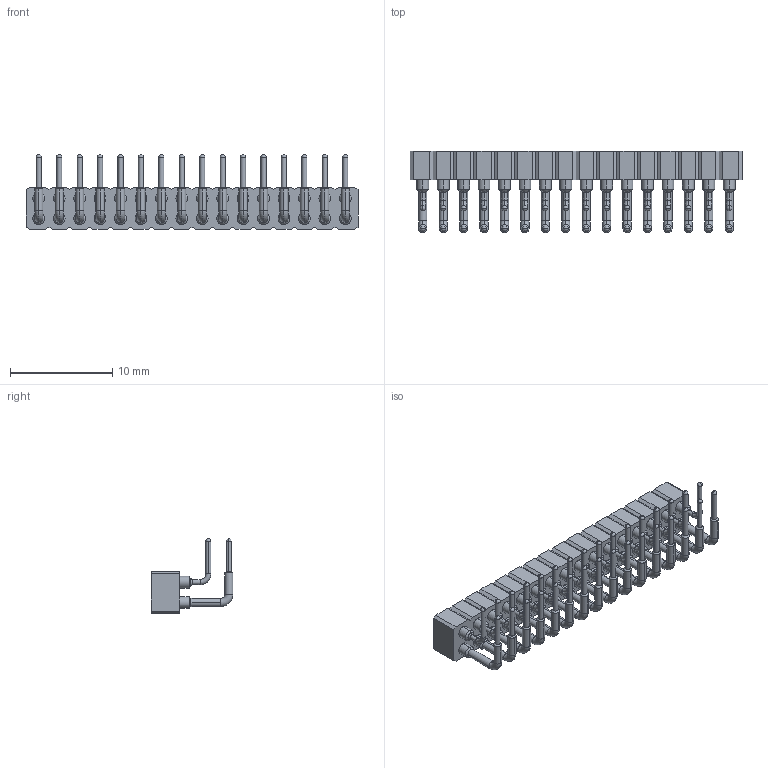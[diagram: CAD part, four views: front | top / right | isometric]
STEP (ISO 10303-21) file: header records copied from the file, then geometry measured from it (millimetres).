
FILE_DESCRIPTION (( 'STEP AP203' ), '1' );
FILE_NAME ('PM200-2-16-W-2.8-XX-C (2.0 双排 圆针 弯排母 塑高2.8-HCTL).STEP', '2026-02-04T09:52:44', ( '' ), ( '' ), 'SwSTEP 2.0', 'SolidWorks 2025', '' );
FILE_SCHEMA (( 'CONFIG_CONTROL_DESIGN' ));
Length unit declared in the file: millimetre
Products named in the file (1): PM200-2-16-W-2.8-XX-C (2.0 双排 圆针 弯排母 塑高2.8-HCTL)
Bounding box: 32.5 x 8 x 7.3 mm (x, y, z)
Volume: 471.6 mm3; surface area: 1084.9 mm2
Topology: 1 solids, 1 shells, 772 faces, 1806 edges, 1068 vertices
Faces by surface type: cylinder 352, plane 164, torus 96, cone 96, sphere 64
Entity records: 21183 total; most frequent: DIRECTION 4168, CARTESIAN_POINT 3463, ORIENTED_EDGE 3364, AXIS2_PLACEMENT_3D 1713, EDGE_CURVE 1682, VERTEX_POINT 1008, CIRCLE 940, EDGE_LOOP 868
